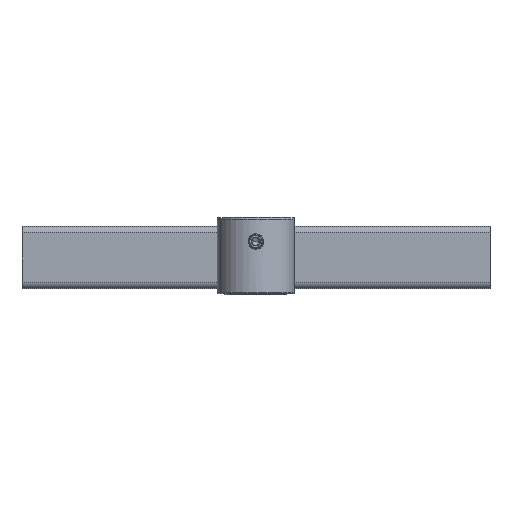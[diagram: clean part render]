
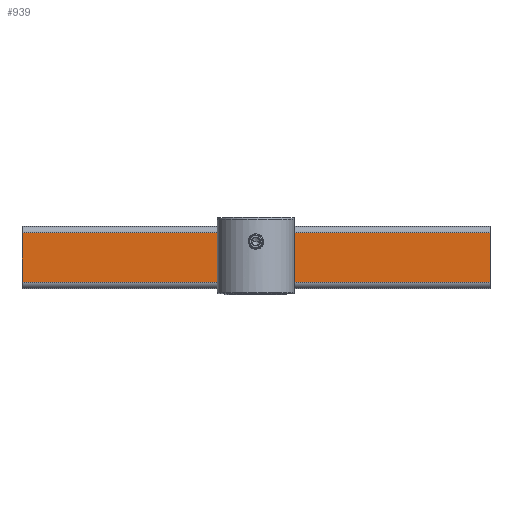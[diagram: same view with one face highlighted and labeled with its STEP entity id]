
A CAD part, top view. The second image highlights one B-rep face of the part: STEP entity #939.
In plain terms, the highlighted planar face has unit normal (0, 0, 1) as drawn and (1, 0, 0) by its records, which use the part's own axes.
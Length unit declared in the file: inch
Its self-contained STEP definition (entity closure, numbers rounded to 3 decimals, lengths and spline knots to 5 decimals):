
#23 = VERTEX_POINT ( 'NONE', #1419 ) ;
#34 = DIRECTION ( 'NONE',  ( 0., 0., 1. ) ) ;
#190 = CARTESIAN_POINT ( 'NONE',  ( 0.5, 0.4, 0. ) ) ;
#296 = EDGE_CURVE ( 'NONE', #3515, #4255, #3028, .T. ) ;
#449 = VECTOR ( 'NONE', #34, 39.37008 ) ;
#511 = DIRECTION ( 'NONE',  ( 0., 1., 0. ) ) ;
#566 = CARTESIAN_POINT ( 'NONE',  ( 0.5, -0.5, 7.545 ) ) ;
#567 = ORIENTED_EDGE ( 'NONE', *, *, #296, .T. ) ;
#712 = AXIS2_PLACEMENT_3D ( 'NONE', #2360, #1202, #2784 ) ;
#742 = DIRECTION ( 'NONE',  ( 0., 0., -1. ) ) ;
#747 = LINE ( 'NONE', #1522, #449 ) ;
#939 = ADVANCED_FACE ( 'NONE', ( #1150 ), #2335, .F. ) ;
#1066 = CARTESIAN_POINT ( 'NONE',  ( 0.5, -0.4, 7.545 ) ) ;
#1150 = FACE_OUTER_BOUND ( 'NONE', #3426, .T. ) ;
#1202 = DIRECTION ( 'NONE',  ( -1., 0., 0. ) ) ;
#1243 = CARTESIAN_POINT ( 'NONE',  ( 0.5, -0.4, 0. ) ) ;
#1259 = VERTEX_POINT ( 'NONE', #1066 ) ;
#1323 = LINE ( 'NONE', #566, #4593 ) ;
#1419 = CARTESIAN_POINT ( 'NONE',  ( 0.5, 0.4, 7.545 ) ) ;
#1512 = VECTOR ( 'NONE', #742, 39.37008 ) ;
#1522 = CARTESIAN_POINT ( 'NONE',  ( 0.5, 0.4, 7.545 ) ) ;
#1540 = ORIENTED_EDGE ( 'NONE', *, *, #4796, .T. ) ;
#1704 = ORIENTED_EDGE ( 'NONE', *, *, #2476, .F. ) ;
#2009 = ORIENTED_EDGE ( 'NONE', *, *, #3258, .T. ) ;
#2270 = CARTESIAN_POINT ( 'NONE',  ( 0.5, -0.4, 7.545 ) ) ;
#2335 = PLANE ( 'NONE',  #712 ) ;
#2360 = CARTESIAN_POINT ( 'NONE',  ( 0.5, -0.5, 7.545 ) ) ;
#2476 = EDGE_CURVE ( 'NONE', #1259, #23, #1323, .T. ) ;
#2784 = DIRECTION ( 'NONE',  ( 0., 0., 1. ) ) ;
#3028 = LINE ( 'NONE', #4540, #4441 ) ;
#3258 = EDGE_CURVE ( 'NONE', #4255, #23, #747, .T. ) ;
#3426 = EDGE_LOOP ( 'NONE', ( #1704, #1540, #567, #2009 ) ) ;
#3515 = VERTEX_POINT ( 'NONE', #1243 ) ;
#3865 = DIRECTION ( 'NONE',  ( 0., 1., 0. ) ) ;
#3890 = LINE ( 'NONE', #2270, #1512 ) ;
#4255 = VERTEX_POINT ( 'NONE', #190 ) ;
#4441 = VECTOR ( 'NONE', #3865, 39.37008 ) ;
#4540 = CARTESIAN_POINT ( 'NONE',  ( 0.5, -0.5, 0. ) ) ;
#4593 = VECTOR ( 'NONE', #511, 39.37008 ) ;
#4796 = EDGE_CURVE ( 'NONE', #1259, #3515, #3890, .T. ) ;
